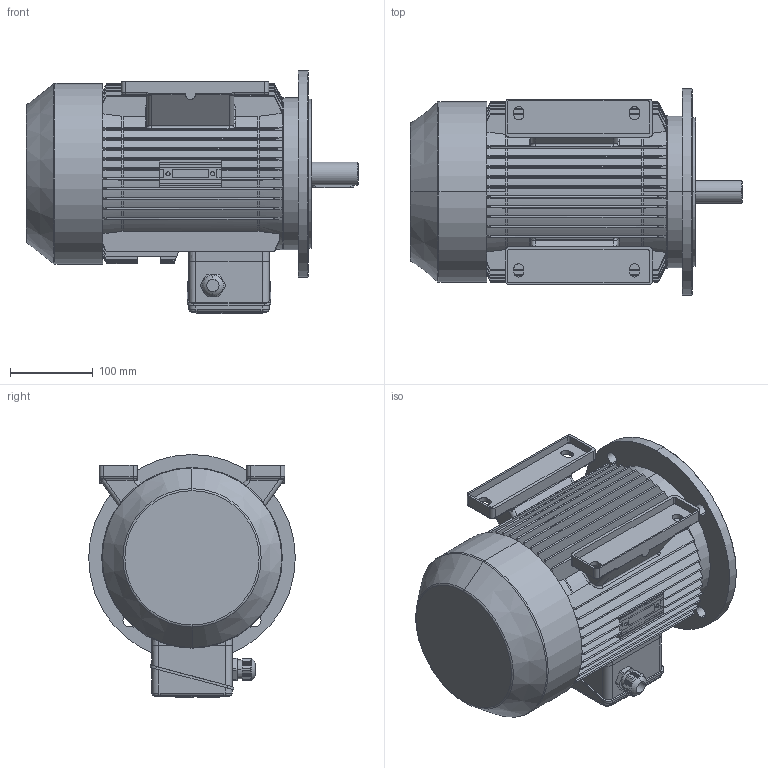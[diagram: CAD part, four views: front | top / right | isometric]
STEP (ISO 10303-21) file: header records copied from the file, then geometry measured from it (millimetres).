
FILE_DESCRIPTION (( 'STEP AP214' ), '1' );
FILE_NAME ('MAP112M4A IM2041 A250 FF215.STEP', '2020-12-23T13:01:14', ( '' ), ( '' ), 'SwSTEP 2.0', 'SolidWorks 2018', '' );
FILE_SCHEMA (( 'AUTOMOTIVE_DESIGN' ));
Length unit declared in the file: millimetre
Products named in the file (1): MAP112M4A IM2041 A250 FF215
Bounding box: 401.5 x 250 x 294 mm (x, y, z)
Volume: 10949364.8 mm3; surface area: 872439 mm2
Topology: 3 solids, 8 shells, 1298 faces, 3476 edges, 2210 vertices
Faces by surface type: plane 556, cylinder 322, cone 145, torus 128, bspline 125, sphere 22
Entity records: 50362 total; most frequent: CARTESIAN_POINT 19900, ORIENTED_EDGE 6900, DIRECTION 5629, EDGE_CURVE 3450, VERTEX_POINT 2210, AXIS2_PLACEMENT_3D 1986, VECTOR 1657, LINE 1657
